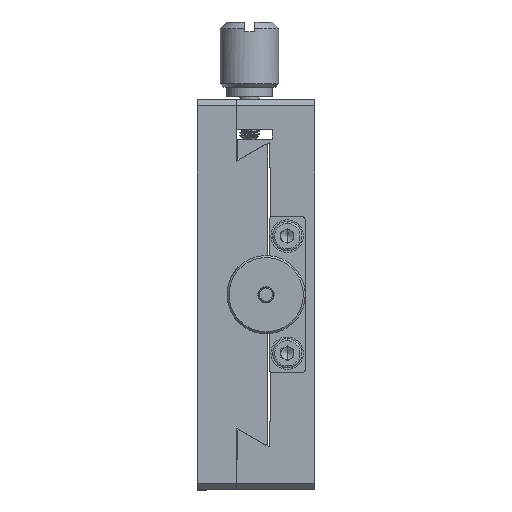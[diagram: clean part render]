
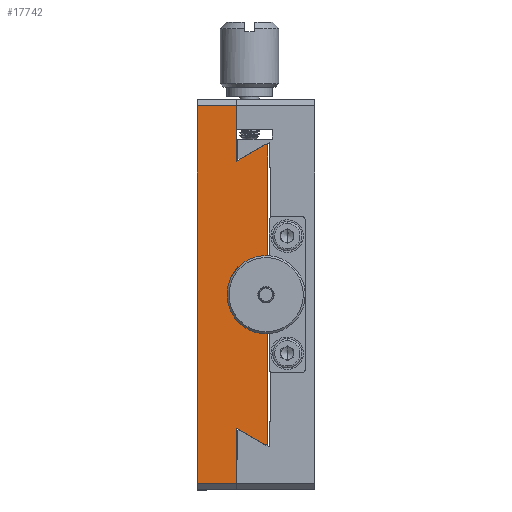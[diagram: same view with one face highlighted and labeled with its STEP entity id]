
A CAD part, left-side view. The second image highlights one B-rep face of the part: STEP entity #17742.
In plain terms, the highlighted planar face has unit normal (-1, 0, 0).
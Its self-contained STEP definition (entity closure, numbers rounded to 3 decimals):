
#1012 = VECTOR ( 'NONE', #29368, 1000. ) ;
#3644 = CARTESIAN_POINT ( 'NONE',  ( 0., 7.2, -6.729 ) ) ;
#4521 = DIRECTION ( 'NONE',  ( 0., -0.707, 0.707 ) ) ;
#5440 = CARTESIAN_POINT ( 'NONE',  ( 0., 7.2, -7. ) ) ;
#5632 = VECTOR ( 'NONE', #4521, 1000. ) ;
#6601 = ORIENTED_EDGE ( 'NONE', *, *, #58127, .F. ) ;
#7066 = VECTOR ( 'NONE', #43266, 1000. ) ;
#7194 = CARTESIAN_POINT ( 'NONE',  ( 0., 8.2, -26.5 ) ) ;
#7631 = EDGE_CURVE ( 'NONE', #20060, #19859, #25256, .T. ) ;
#7669 = ORIENTED_EDGE ( 'NONE', *, *, #48256, .F. ) ;
#8890 = EDGE_CURVE ( 'NONE', #17792, #55805, #12360, .T. ) ;
#9020 = CARTESIAN_POINT ( 'NONE',  ( 0., 7.2, -34.5 ) ) ;
#9332 = CARTESIAN_POINT ( 'NONE',  ( 0., 7.2, -26.5 ) ) ;
#11125 = CARTESIAN_POINT ( 'NONE',  ( 0., 18., 0. ) ) ;
#11943 = CARTESIAN_POINT ( 'NONE',  ( 0., 12., -9.5 ) ) ;
#12360 = LINE ( 'NONE', #11125, #31794 ) ;
#14304 = EDGE_CURVE ( 'NONE', #17792, #45929, #28142, .T. ) ;
#14693 = LINE ( 'NONE', #57138, #43906 ) ;
#16305 = EDGE_CURVE ( 'NONE', #19085, #20866, #14693, .T. ) ;
#16936 = CARTESIAN_POINT ( 'NONE',  ( 0., 18., -1. ) ) ;
#16957 = ORIENTED_EDGE ( 'NONE', *, *, #60839, .F. ) ;
#17742 = ADVANCED_FACE ( 'NONE', ( #34755 ), #58297, .T. ) ;
#17792 = VERTEX_POINT ( 'NONE', #41774 ) ;
#18061 = VECTOR ( 'NONE', #61322, 1000. ) ;
#18461 = ORIENTED_EDGE ( 'NONE', *, *, #26412, .F. ) ;
#19085 = VERTEX_POINT ( 'NONE', #9020 ) ;
#19774 = CARTESIAN_POINT ( 'NONE',  ( 0., 12., -60. ) ) ;
#19850 = EDGE_CURVE ( 'NONE', #19859, #55489, #49209, .T. ) ;
#19859 = VERTEX_POINT ( 'NONE', #50728 ) ;
#19910 = VECTOR ( 'NONE', #43633, 1000. ) ;
#20060 = VERTEX_POINT ( 'NONE', #51332 ) ;
#20082 = LINE ( 'NONE', #19774, #1012 ) ;
#20285 = CARTESIAN_POINT ( 'NONE',  ( 0., 7.2, -53. ) ) ;
#20314 = ORIENTED_EDGE ( 'NONE', *, *, #14304, .T. ) ;
#20866 = VERTEX_POINT ( 'NONE', #38395 ) ;
#20882 = VECTOR ( 'NONE', #44790, 1000. ) ;
#21048 = CARTESIAN_POINT ( 'NONE',  ( 0., 10.7, -33.5 ) ) ;
#23377 = DIRECTION ( 'NONE',  ( 0., -1., 0. ) ) ;
#23419 = CARTESIAN_POINT ( 'NONE',  ( 0., 7.2, -53.271 ) ) ;
#23679 = CARTESIAN_POINT ( 'NONE',  ( 0., -0.15, -18.15 ) ) ;
#23956 = VERTEX_POINT ( 'NONE', #44093 ) ;
#24704 = LINE ( 'NONE', #49207, #19910 ) ;
#25256 = LINE ( 'NONE', #11943, #27983 ) ;
#25850 = CARTESIAN_POINT ( 'NONE',  ( 0., 12., -50.5 ) ) ;
#26102 = VECTOR ( 'NONE', #35270, 1000. ) ;
#26412 = EDGE_CURVE ( 'NONE', #37285, #46248, #51782, .T. ) ;
#26438 = CARTESIAN_POINT ( 'NONE',  ( 0., 12., -59. ) ) ;
#26879 = VECTOR ( 'NONE', #59831, 1000. ) ;
#26989 = VERTEX_POINT ( 'NONE', #31523 ) ;
#27799 = LINE ( 'NONE', #60687, #46956 ) ;
#27983 = VECTOR ( 'NONE', #44808, 1000. ) ;
#28142 = LINE ( 'NONE', #47095, #18061 ) ;
#28203 = DIRECTION ( 'NONE',  ( 0., 1., 0. ) ) ;
#28927 = DIRECTION ( 'NONE',  ( 0., 1., 0. ) ) ;
#28943 = EDGE_CURVE ( 'NONE', #20060, #55805, #43507, .T. ) ;
#29368 = DIRECTION ( 'NONE',  ( 0., 0., -1. ) ) ;
#30262 = VECTOR ( 'NONE', #28927, 1000. ) ;
#30450 = ORIENTED_EDGE ( 'NONE', *, *, #56787, .F. ) ;
#30727 = EDGE_CURVE ( 'NONE', #37285, #26989, #37973, .T. ) ;
#30835 = VERTEX_POINT ( 'NONE', #5440 ) ;
#31523 = CARTESIAN_POINT ( 'NONE',  ( 0., 7.2, -25.5 ) ) ;
#31776 = LINE ( 'NONE', #51592, #42367 ) ;
#31794 = VECTOR ( 'NONE', #40270, 1000. ) ;
#32093 = AXIS2_PLACEMENT_3D ( 'NONE', #36519, #35381, #54298 ) ;
#33095 = ORIENTED_EDGE ( 'NONE', *, *, #50313, .F. ) ;
#33270 = EDGE_CURVE ( 'NONE', #55489, #30835, #31776, .T. ) ;
#33536 = CARTESIAN_POINT ( 'NONE',  ( 0., 10.7, -26.5 ) ) ;
#34173 = VERTEX_POINT ( 'NONE', #21048 ) ;
#34755 = FACE_OUTER_BOUND ( 'NONE', #61154, .T. ) ;
#35270 = DIRECTION ( 'NONE',  ( 0., -0.866, 0.5 ) ) ;
#35381 = DIRECTION ( 'NONE',  ( -1., 0., 0. ) ) ;
#36285 = LINE ( 'NONE', #55470, #26879 ) ;
#36519 = CARTESIAN_POINT ( 'NONE',  ( 0., 18., 0. ) ) ;
#37285 = VERTEX_POINT ( 'NONE', #7194 ) ;
#37973 = LINE ( 'NONE', #23679, #5632 ) ;
#38395 = CARTESIAN_POINT ( 'NONE',  ( 0., 8.2, -33.5 ) ) ;
#39013 = CARTESIAN_POINT ( 'NONE',  ( 0., 12., -50.5 ) ) ;
#39078 = VECTOR ( 'NONE', #28203, 1000. ) ;
#39827 = DIRECTION ( 'NONE',  ( 0., 1., 0. ) ) ;
#40158 = LINE ( 'NONE', #25850, #20882 ) ;
#40258 = ORIENTED_EDGE ( 'NONE', *, *, #33270, .F. ) ;
#40270 = DIRECTION ( 'NONE',  ( 0., 0., 1. ) ) ;
#40402 = EDGE_CURVE ( 'NONE', #49274, #45929, #20082, .T. ) ;
#41223 = ORIENTED_EDGE ( 'NONE', *, *, #40402, .F. ) ;
#41774 = CARTESIAN_POINT ( 'NONE',  ( 0., 18., -59. ) ) ;
#42367 = VECTOR ( 'NONE', #23377, 1000. ) ;
#42499 = ORIENTED_EDGE ( 'NONE', *, *, #16305, .T. ) ;
#43266 = DIRECTION ( 'NONE',  ( 0., 0., -1. ) ) ;
#43507 = LINE ( 'NONE', #57133, #30262 ) ;
#43633 = DIRECTION ( 'NONE',  ( 0., -1., 0. ) ) ;
#43807 = ORIENTED_EDGE ( 'NONE', *, *, #19850, .F. ) ;
#43906 = VECTOR ( 'NONE', #47558, 1000. ) ;
#44093 = CARTESIAN_POINT ( 'NONE',  ( 0., 7.2, -53. ) ) ;
#44790 = DIRECTION ( 'NONE',  ( 0., 0.866, 0.5 ) ) ;
#44808 = DIRECTION ( 'NONE',  ( 0., 0., -1. ) ) ;
#45807 = EDGE_CURVE ( 'NONE', #46248, #34173, #36285, .T. ) ;
#45929 = VERTEX_POINT ( 'NONE', #26438 ) ;
#46248 = VERTEX_POINT ( 'NONE', #33536 ) ;
#46953 = ORIENTED_EDGE ( 'NONE', *, *, #28943, .T. ) ;
#46956 = VECTOR ( 'NONE', #51691, 1000. ) ;
#47095 = CARTESIAN_POINT ( 'NONE',  ( 0., 12., -59. ) ) ;
#47308 = LINE ( 'NONE', #23419, #7066 ) ;
#47558 = DIRECTION ( 'NONE',  ( 0., 0.707, 0.707 ) ) ;
#48256 = EDGE_CURVE ( 'NONE', #58343, #49274, #40158, .T. ) ;
#48807 = LINE ( 'NONE', #20285, #51738 ) ;
#49197 = ORIENTED_EDGE ( 'NONE', *, *, #30727, .T. ) ;
#49207 = CARTESIAN_POINT ( 'NONE',  ( 0., 7.2, -33.5 ) ) ;
#49209 = LINE ( 'NONE', #3644, #26102 ) ;
#49274 = VERTEX_POINT ( 'NONE', #39013 ) ;
#50313 = EDGE_CURVE ( 'NONE', #19085, #23956, #47308, .T. ) ;
#50728 = CARTESIAN_POINT ( 'NONE',  ( 0., 12., -9.5 ) ) ;
#51332 = CARTESIAN_POINT ( 'NONE',  ( 0., 12., -1. ) ) ;
#51592 = CARTESIAN_POINT ( 'NONE',  ( 0., 7.2, -7. ) ) ;
#51691 = DIRECTION ( 'NONE',  ( 0., 0., -1. ) ) ;
#51738 = VECTOR ( 'NONE', #39827, 1000. ) ;
#51782 = LINE ( 'NONE', #9332, #39078 ) ;
#51947 = CARTESIAN_POINT ( 'NONE',  ( 0., 7.67, -53. ) ) ;
#54231 = CARTESIAN_POINT ( 'NONE',  ( 0., 7.67, -7. ) ) ;
#54298 = DIRECTION ( 'NONE',  ( 0., 0., 1. ) ) ;
#55470 = CARTESIAN_POINT ( 'NONE',  ( 0., 10.7, -33.5 ) ) ;
#55489 = VERTEX_POINT ( 'NONE', #54231 ) ;
#55805 = VERTEX_POINT ( 'NONE', #16936 ) ;
#56527 = ORIENTED_EDGE ( 'NONE', *, *, #8890, .F. ) ;
#56787 = EDGE_CURVE ( 'NONE', #30835, #26989, #27799, .T. ) ;
#57133 = CARTESIAN_POINT ( 'NONE',  ( 0., 18., -1. ) ) ;
#57138 = CARTESIAN_POINT ( 'NONE',  ( 0., 29.85, -11.85 ) ) ;
#58127 = EDGE_CURVE ( 'NONE', #34173, #20866, #24704, .T. ) ;
#58297 = PLANE ( 'NONE',  #32093 ) ;
#58343 = VERTEX_POINT ( 'NONE', #51947 ) ;
#59542 = ORIENTED_EDGE ( 'NONE', *, *, #7631, .F. ) ;
#59831 = DIRECTION ( 'NONE',  ( 0., 0., -1. ) ) ;
#60313 = ORIENTED_EDGE ( 'NONE', *, *, #45807, .F. ) ;
#60687 = CARTESIAN_POINT ( 'NONE',  ( 0., 7.2, -53.271 ) ) ;
#60839 = EDGE_CURVE ( 'NONE', #23956, #58343, #48807, .T. ) ;
#61154 = EDGE_LOOP ( 'NONE', ( #33095, #42499, #6601, #60313, #18461, #49197, #30450, #40258, #43807, #59542, #46953, #56527, #20314, #41223, #7669, #16957 ) ) ;
#61322 = DIRECTION ( 'NONE',  ( 0., -1., 0. ) ) ;
